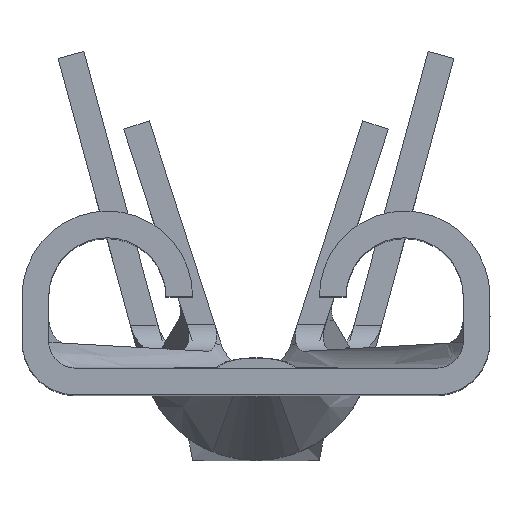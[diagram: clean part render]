
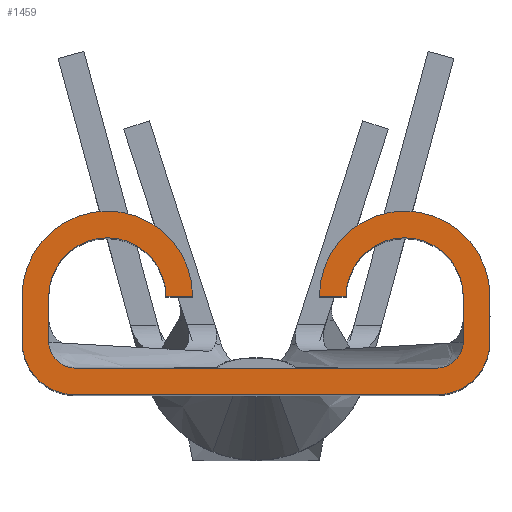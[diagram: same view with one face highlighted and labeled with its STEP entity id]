
A CAD part, top view. The second image highlights one B-rep face of the part: STEP entity #1459.
In plain terms, the highlighted planar face has unit normal (0, 0, 1).
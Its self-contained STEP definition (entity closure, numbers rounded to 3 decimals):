
#1=CARTESIAN_POINT('',(1.783,1.18,0.));
#2=DIRECTION('',(0.,0.,-1.));
#3=DIRECTION('',(-1.,0.,0.));
#4=AXIS2_PLACEMENT_3D('',#1,#2,#3);
#6=DIRECTION('',(0.,-1.,0.));
#7=VECTOR('',#6,0.54);
#8=CARTESIAN_POINT('',(2.805,1.18,0.));
#9=LINE('',#8,#7);
#10=CARTESIAN_POINT('',(2.165,0.64,0.));
#11=DIRECTION('',(0.,0.,-1.));
#12=DIRECTION('',(1.,0.,0.));
#13=AXIS2_PLACEMENT_3D('',#10,#11,#12);
#15=DIRECTION('',(-1.,0.,0.));
#16=VECTOR('',#15,4.33);
#17=CARTESIAN_POINT('',(2.165,0.,0.));
#18=LINE('',#17,#16);
#19=CARTESIAN_POINT('',(-2.165,0.64,0.));
#20=DIRECTION('',(0.,0.,-1.));
#21=DIRECTION('',(0.,-1.,0.));
#22=AXIS2_PLACEMENT_3D('',#19,#20,#21);
#24=DIRECTION('',(0.,1.,0.));
#25=VECTOR('',#24,0.54);
#26=CARTESIAN_POINT('',(-2.805,0.64,0.));
#27=LINE('',#26,#25);
#28=CARTESIAN_POINT('',(-1.783,1.18,0.));
#29=DIRECTION('',(0.,0.,-1.));
#30=DIRECTION('',(-1.,0.,0.));
#31=AXIS2_PLACEMENT_3D('',#28,#29,#30);
#33=DIRECTION('',(-1.,0.,0.));
#34=VECTOR('',#33,0.32);
#35=CARTESIAN_POINT('',(-0.76,1.18,0.));
#36=LINE('',#35,#34);
#37=CARTESIAN_POINT('',(-1.783,1.18,0.));
#38=DIRECTION('',(0.,0.,1.));
#39=DIRECTION('',(1.,0.,0.));
#40=AXIS2_PLACEMENT_3D('',#37,#38,#39);
#42=DIRECTION('',(0.,-1.,0.));
#43=VECTOR('',#42,0.54);
#44=CARTESIAN_POINT('',(-2.485,1.18,0.));
#45=LINE('',#44,#43);
#46=CARTESIAN_POINT('',(-2.165,0.64,0.));
#47=DIRECTION('',(0.,0.,1.));
#48=DIRECTION('',(-1.,0.,0.));
#49=AXIS2_PLACEMENT_3D('',#46,#47,#48);
#51=DIRECTION('',(1.,0.,0.));
#52=VECTOR('',#51,4.33);
#53=CARTESIAN_POINT('',(-2.165,0.32,0.));
#54=LINE('',#53,#52);
#55=CARTESIAN_POINT('',(2.165,0.64,0.));
#56=DIRECTION('',(0.,0.,1.));
#57=DIRECTION('',(0.,-1.,0.));
#58=AXIS2_PLACEMENT_3D('',#55,#56,#57);
#60=DIRECTION('',(0.,1.,0.));
#61=VECTOR('',#60,0.54);
#62=CARTESIAN_POINT('',(2.485,0.64,0.));
#63=LINE('',#62,#61);
#64=CARTESIAN_POINT('',(1.783,1.18,0.));
#65=DIRECTION('',(0.,0.,1.));
#66=DIRECTION('',(1.,0.,0.));
#67=AXIS2_PLACEMENT_3D('',#64,#65,#66);
#69=DIRECTION('',(-1.,0.,0.));
#70=VECTOR('',#69,0.32);
#71=CARTESIAN_POINT('',(1.08,1.18,0.));
#72=LINE('',#71,#70);
#1174=CARTESIAN_POINT('',(0.76,1.18,0.));
#1175=CARTESIAN_POINT('',(2.805,1.18,0.));
#1176=VERTEX_POINT('',#1174);
#1177=VERTEX_POINT('',#1175);
#1178=CARTESIAN_POINT('',(2.805,0.64,0.));
#1179=VERTEX_POINT('',#1178);
#1180=CARTESIAN_POINT('',(2.165,0.,0.));
#1181=VERTEX_POINT('',#1180);
#1182=CARTESIAN_POINT('',(-2.165,0.,0.));
#1183=VERTEX_POINT('',#1182);
#1184=CARTESIAN_POINT('',(-2.805,0.64,0.));
#1185=VERTEX_POINT('',#1184);
#1186=CARTESIAN_POINT('',(-2.805,1.18,0.));
#1187=VERTEX_POINT('',#1186);
#1188=CARTESIAN_POINT('',(-0.76,1.18,0.));
#1189=VERTEX_POINT('',#1188);
#1190=CARTESIAN_POINT('',(-1.08,1.18,0.));
#1191=VERTEX_POINT('',#1190);
#1192=CARTESIAN_POINT('',(-2.485,1.18,0.));
#1193=VERTEX_POINT('',#1192);
#1194=CARTESIAN_POINT('',(-2.485,0.64,0.));
#1195=VERTEX_POINT('',#1194);
#1196=CARTESIAN_POINT('',(-2.165,0.32,0.));
#1197=VERTEX_POINT('',#1196);
#1198=CARTESIAN_POINT('',(2.165,0.32,0.));
#1199=VERTEX_POINT('',#1198);
#1200=CARTESIAN_POINT('',(2.485,0.64,0.));
#1201=VERTEX_POINT('',#1200);
#1202=CARTESIAN_POINT('',(2.485,1.18,0.));
#1203=VERTEX_POINT('',#1202);
#1204=CARTESIAN_POINT('',(1.08,1.18,0.));
#1205=VERTEX_POINT('',#1204);
#1420=CARTESIAN_POINT('',(0.,0.,0.));
#1421=DIRECTION('',(0.,0.,1.));
#1422=DIRECTION('',(1.,0.,0.));
#1423=AXIS2_PLACEMENT_3D('',#1420,#1421,#1422);
#1424=PLANE('',#1423);
#1426=ORIENTED_EDGE('',*,*,#1425,.T.);
#1428=ORIENTED_EDGE('',*,*,#1427,.T.);
#1430=ORIENTED_EDGE('',*,*,#1429,.T.);
#1432=ORIENTED_EDGE('',*,*,#1431,.T.);
#1434=ORIENTED_EDGE('',*,*,#1433,.T.);
#1436=ORIENTED_EDGE('',*,*,#1435,.T.);
#1438=ORIENTED_EDGE('',*,*,#1437,.T.);
#1440=ORIENTED_EDGE('',*,*,#1439,.T.);
#1442=ORIENTED_EDGE('',*,*,#1441,.T.);
#1444=ORIENTED_EDGE('',*,*,#1443,.T.);
#1446=ORIENTED_EDGE('',*,*,#1445,.T.);
#1448=ORIENTED_EDGE('',*,*,#1447,.T.);
#1450=ORIENTED_EDGE('',*,*,#1449,.T.);
#1452=ORIENTED_EDGE('',*,*,#1451,.T.);
#1454=ORIENTED_EDGE('',*,*,#1453,.T.);
#1456=ORIENTED_EDGE('',*,*,#1455,.T.);
#1457=EDGE_LOOP('',(#1426,#1428,#1430,#1432,#1434,#1436,#1438,#1440,#1442,#1444,
#1446,#1448,#1450,#1452,#1454,#1456));
#1458=FACE_OUTER_BOUND('',#1457,.F.);
#1459=ADVANCED_FACE('',(#1458),#1424,.T.);
#5=CIRCLE('',#4,1.023);
#14=CIRCLE('',#13,0.64);
#23=CIRCLE('',#22,0.64);
#32=CIRCLE('',#31,1.023);
#41=CIRCLE('',#40,0.703);
#50=CIRCLE('',#49,0.32);
#59=CIRCLE('',#58,0.32);
#68=CIRCLE('',#67,0.703);
#1425=EDGE_CURVE('',#1176,#1177,#5,.T.);
#1427=EDGE_CURVE('',#1177,#1179,#9,.T.);
#1429=EDGE_CURVE('',#1179,#1181,#14,.T.);
#1431=EDGE_CURVE('',#1181,#1183,#18,.T.);
#1433=EDGE_CURVE('',#1183,#1185,#23,.T.);
#1435=EDGE_CURVE('',#1185,#1187,#27,.T.);
#1437=EDGE_CURVE('',#1187,#1189,#32,.T.);
#1439=EDGE_CURVE('',#1189,#1191,#36,.T.);
#1441=EDGE_CURVE('',#1191,#1193,#41,.T.);
#1443=EDGE_CURVE('',#1193,#1195,#45,.T.);
#1445=EDGE_CURVE('',#1195,#1197,#50,.T.);
#1447=EDGE_CURVE('',#1197,#1199,#54,.T.);
#1449=EDGE_CURVE('',#1199,#1201,#59,.T.);
#1451=EDGE_CURVE('',#1201,#1203,#63,.T.);
#1453=EDGE_CURVE('',#1203,#1205,#68,.T.);
#1455=EDGE_CURVE('',#1205,#1176,#72,.T.);
